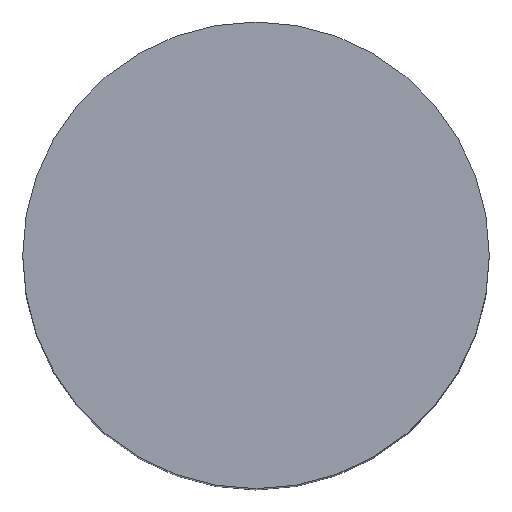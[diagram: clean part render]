
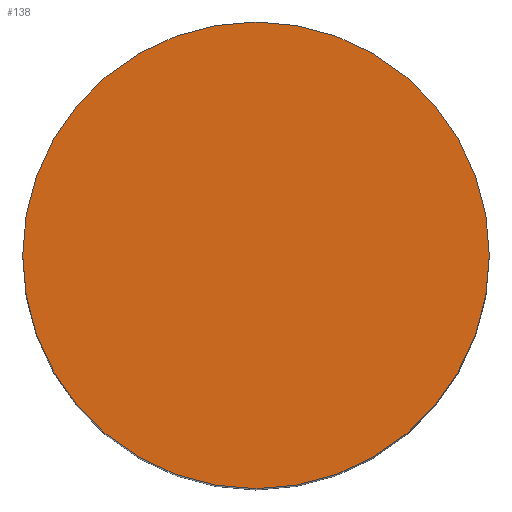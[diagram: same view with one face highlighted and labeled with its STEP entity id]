
A CAD part, top view. The second image highlights one B-rep face of the part: STEP entity #138.
In plain terms, the highlighted planar face has unit normal (0, 0, 1).
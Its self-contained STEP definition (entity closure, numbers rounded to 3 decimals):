
#5 = CARTESIAN_POINT ( 'NONE',  ( 0., 0., 0. ) ) ;
#8 = DIRECTION ( 'NONE',  ( 0., 0., 1. ) ) ;
#10 = DIRECTION ( 'NONE',  ( 1., 0., 0. ) ) ;
#31 = VERTEX_POINT ( 'NONE', #109 ) ;
#39 = DIRECTION ( 'NONE',  ( 1., 0., 0. ) ) ;
#40 = CARTESIAN_POINT ( 'NONE',  ( 2.5, 0., 0. ) ) ;
#46 = PLANE ( 'NONE',  #75 ) ;
#63 = CARTESIAN_POINT ( 'NONE',  ( 0., 0., 0. ) ) ;
#72 = FACE_OUTER_BOUND ( 'NONE', #130, .T. ) ;
#75 = AXIS2_PLACEMENT_3D ( 'NONE', #192, #168, #39 ) ;
#86 = AXIS2_PLACEMENT_3D ( 'NONE', #5, #212, #208 ) ;
#100 = EDGE_CURVE ( 'NONE', #225, #31, #202, .T. ) ;
#105 = EDGE_CURVE ( 'NONE', #31, #225, #162, .T. ) ;
#109 = CARTESIAN_POINT ( 'NONE',  ( -2.5, 0., 0. ) ) ;
#130 = EDGE_LOOP ( 'NONE', ( #145, #211 ) ) ;
#138 = ADVANCED_FACE ( 'NONE', ( #72 ), #46, .T. ) ;
#145 = ORIENTED_EDGE ( 'NONE', *, *, #100, .T. ) ;
#162 = CIRCLE ( 'NONE', #86, 2.5 ) ;
#168 = DIRECTION ( 'NONE',  ( 0., 0., 1. ) ) ;
#171 = AXIS2_PLACEMENT_3D ( 'NONE', #63, #8, #10 ) ;
#192 = CARTESIAN_POINT ( 'NONE',  ( 0., 0., 0. ) ) ;
#202 = CIRCLE ( 'NONE', #171, 2.5 ) ;
#208 = DIRECTION ( 'NONE',  ( 1., 0., 0. ) ) ;
#211 = ORIENTED_EDGE ( 'NONE', *, *, #105, .T. ) ;
#212 = DIRECTION ( 'NONE',  ( 0., 0., 1. ) ) ;
#225 = VERTEX_POINT ( 'NONE', #40 ) ;
